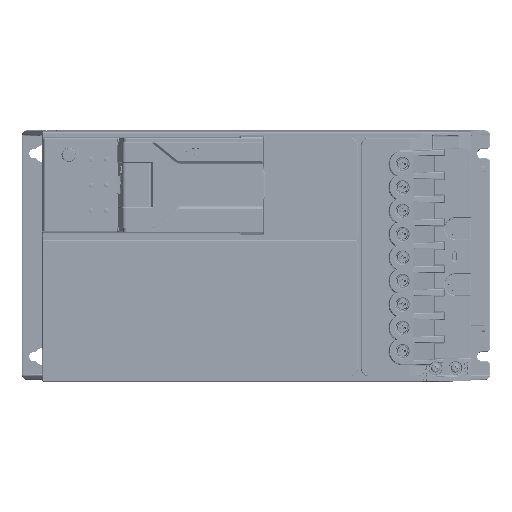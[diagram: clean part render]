
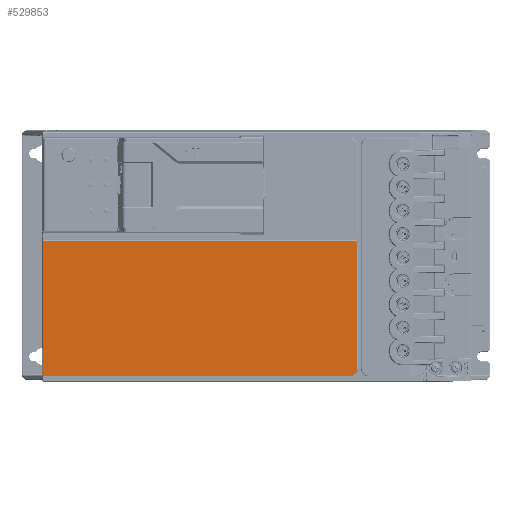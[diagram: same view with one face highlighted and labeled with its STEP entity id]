
A CAD part, left-side view. The second image highlights one B-rep face of the part: STEP entity #529853.
In plain terms, the highlighted planar face has unit normal (-1, 0, -0.008).
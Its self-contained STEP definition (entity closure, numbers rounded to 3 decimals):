
#414377=CARTESIAN_POINT('',(656.336,-7.08,
-293.99));
#414400=CARTESIAN_POINT('',(655.666,-7.08,
-207.487));
#414402=DIRECTION('',(0.008,0.,-1.));
#414403=VECTOR('',#414402,86.505);
#414404=CARTESIAN_POINT('',(655.666,-7.08,
-207.487));
#414405=LINE('',#414404,#414403);
#431217=CARTESIAN_POINT('',(655.668,-208.385,
-207.687));
#431218=DIRECTION('',(-1.,0.,-0.008));
#431219=DIRECTION('',(0.,-1.,0.));
#431220=AXIS2_PLACEMENT_3D('',#431217,#431218,#431219);
#431222=CARTESIAN_POINT('',(656.3,-203.885,
-289.29));
#431223=DIRECTION('',(-1.,0.,-0.008));
#431224=DIRECTION('',(0.008,0.,-1.));
#431225=AXIS2_PLACEMENT_3D('',#431222,#431223,#431224);
#431246=DIRECTION('',(-0.008,0.,1.));
#431247=VECTOR('',#431246,81.605);
#431248=CARTESIAN_POINT('',(656.3,-208.585,
-289.29));
#431249=LINE('',#431248,#431247);
#431250=DIRECTION('',(0.,1.,0.));
#431251=VECTOR('',#431250,201.305);
#431252=CARTESIAN_POINT('',(655.666,-208.385,
-207.487));
#431253=LINE('',#431252,#431251);
#431258=DIRECTION('',(0.,-1.,0.));
#431259=VECTOR('',#431258,196.804);
#431260=CARTESIAN_POINT('',(656.336,-7.08,
-293.99));
#431261=LINE('',#431260,#431259);
#468217=VERTEX_POINT('',#414377);
#468218=VERTEX_POINT('',#414400);
#469952=CARTESIAN_POINT('',(656.336,-203.884,
-293.99));
#469953=CARTESIAN_POINT('',(656.3,-208.585,
-289.29));
#469954=VERTEX_POINT('',#469952);
#469955=VERTEX_POINT('',#469953);
#469956=CARTESIAN_POINT('',(655.668,-208.585,
-207.687));
#469957=CARTESIAN_POINT('',(655.666,-208.385,
-207.487));
#469958=VERTEX_POINT('',#469956);
#469959=VERTEX_POINT('',#469957);
#529836=CARTESIAN_POINT('',(656.001,-107.833,
-250.739));
#529837=DIRECTION('',(1.,0.,0.008));
#529838=DIRECTION('',(-0.008,0.,1.));
#529839=AXIS2_PLACEMENT_3D('',#529836,#529837,#529838);
#529840=PLANE('',#529839);
#529842=ORIENTED_EDGE('',*,*,#529841,.F.);
#529844=ORIENTED_EDGE('',*,*,#529843,.F.);
#529845=ORIENTED_EDGE('',*,*,#529826,.F.);
#529847=ORIENTED_EDGE('',*,*,#529846,.F.);
#529848=ORIENTED_EDGE('',*,*,#505306,.F.);
#529850=ORIENTED_EDGE('',*,*,#529849,.F.);
#529851=EDGE_LOOP('',(#529842,#529844,#529845,#529847,#529848,#529850));
#529852=FACE_OUTER_BOUND('',#529851,.F.);
#529853=ADVANCED_FACE('',(#529852),#529840,.F.);
#431221=CIRCLE('',#431220,0.2);
#431226=CIRCLE('',#431225,4.7);
#505306=EDGE_CURVE('',#468218,#468217,#414405,.T.);
#529826=EDGE_CURVE('',#469954,#469955,#431226,.T.);
#529841=EDGE_CURVE('',#469958,#469959,#431221,.T.);
#529843=EDGE_CURVE('',#469955,#469958,#431249,.T.);
#529846=EDGE_CURVE('',#468217,#469954,#431261,.T.);
#529849=EDGE_CURVE('',#469959,#468218,#431253,.T.);
